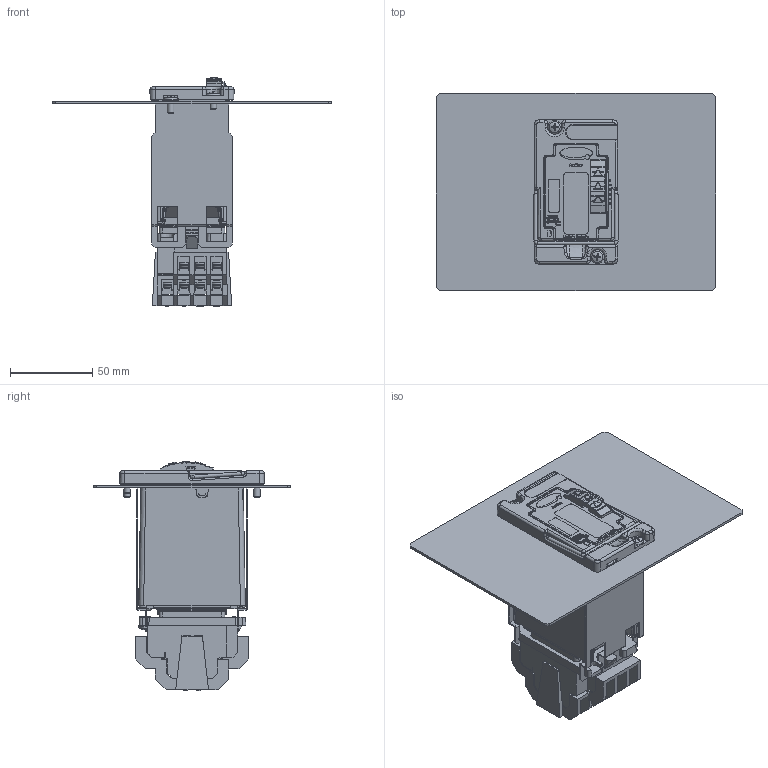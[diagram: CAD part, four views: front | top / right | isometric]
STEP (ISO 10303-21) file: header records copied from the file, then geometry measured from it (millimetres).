
FILE_DESCRIPTION(/* description */ (''),/* implementation_level */ '2;1');
FILE_NAME(/* name */ 'U:\M1 Attachments\CRs\CR1124 - Sales support\FU 153983 - 3D Model Step Files for Delta Enclosures\Flush Mount.stp',/* time_stamp */ '2023-06-28T11:33:36+10:00',/* author */ ('sarah.rady'),/* organization */ (''),/* preprocessor_version */ 'ST-DEVELOPER v19',/* originating_system */ 'Autodesk Inventor 2023',/* authorisation */ '');
FILE_SCHEMA (('AUTOMOTIVE_DESIGN { 1 0 10303 214 3 1 1 }'));
Products named in the file (1): Part3
Bounding box: 170 x 120 x 139.78 mm (x, y, z)
Volume: 352915.8 mm3; surface area: 136569.5 mm2
Topology: 2 solids, 3 shells, 4787 faces, 13747 edges, 8893 vertices
Faces by surface type: plane 2963, bspline 804, cylinder 639, cone 222, torus 105, sphere 54
Full cylindrical faces by diameter (mm): 2.1 x7, 3.571 x14, 4 x19
Entity records: 176913 total; most frequent: CARTESIAN_POINT 51404, ORIENTED_EDGE 27378, DIRECTION 22147, EDGE_CURVE 13689, LINE 9565, VECTOR 9565, VERTEX_POINT 8890, AXIS2_PLACEMENT_3D 6291
